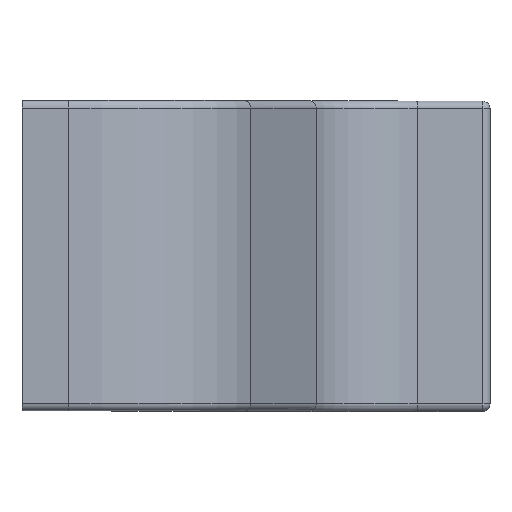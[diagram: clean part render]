
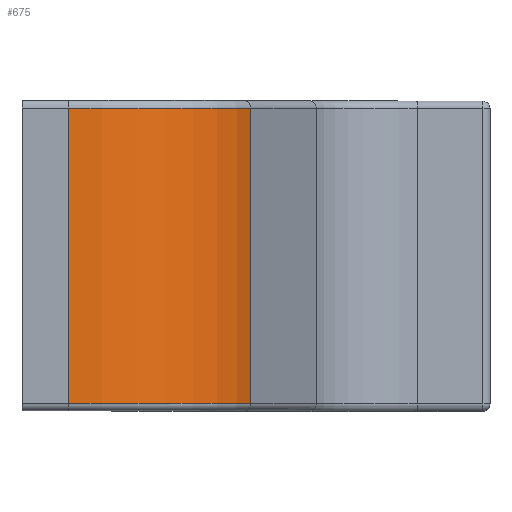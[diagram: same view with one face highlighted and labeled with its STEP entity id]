
A CAD part, top view. The second image highlights one B-rep face of the part: STEP entity #675.
In plain terms, the highlighted cylindrical face has radius 0.249 mm (diameter 0.499 mm), a partial arc.
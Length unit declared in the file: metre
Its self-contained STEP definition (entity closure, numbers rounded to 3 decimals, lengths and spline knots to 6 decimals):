
#70=LINE('',#1435,#114);
#72=LINE('',#1439,#116);
#114=VECTOR('',#1236,1.);
#116=VECTOR('',#1242,1.);
#247=ORIENTED_EDGE('',*,*,#390,.T.);
#248=ORIENTED_EDGE('',*,*,#370,.T.);
#249=ORIENTED_EDGE('',*,*,#392,.F.);
#250=ORIENTED_EDGE('',*,*,#381,.T.);
#370=EDGE_CURVE('',#438,#432,#490,.T.);
#381=EDGE_CURVE('',#443,#447,#495,.T.);
#390=EDGE_CURVE('',#447,#438,#70,.T.);
#392=EDGE_CURVE('',#443,#432,#72,.T.);
#432=VERTEX_POINT('',#1376);
#438=VERTEX_POINT('',#1394);
#443=VERTEX_POINT('',#1407);
#447=VERTEX_POINT('',#1419);
#490=CIRCLE('',#1014,0.000249);
#495=CIRCLE('',#1023,0.000249);
#529=EDGE_LOOP('',(#247,#248,#249,#250));
#571=FACE_BOUND('',#529,.T.);
#598=CYLINDRICAL_SURFACE('',#1031,0.000249);
#675=ADVANCED_FACE('',(#571),#598,.T.);
#1014=AXIS2_PLACEMENT_3D('',#1397,#1192,#1193);
#1023=AXIS2_PLACEMENT_3D('',#1420,#1216,#1217);
#1031=AXIS2_PLACEMENT_3D('',#1438,#1240,#1241);
#1192=DIRECTION('',(0.,1.,0.));
#1193=DIRECTION('',(0.,0.,-1.));
#1216=DIRECTION('',(0.,-1.,0.));
#1217=DIRECTION('',(0.,0.,1.));
#1236=DIRECTION('',(0.,-1.,0.));
#1240=DIRECTION('',(0.,1.,0.));
#1241=DIRECTION('',(0.,0.,1.));
#1242=DIRECTION('',(0.,-1.,0.));
#1376=CARTESIAN_POINT('',(-0.069457,-0.023254,0.009934));
#1394=CARTESIAN_POINT('',(-0.069692,-0.023254,0.010098));
#1397=CARTESIAN_POINT('',(-0.069692,-0.023254,0.009848));
#1407=CARTESIAN_POINT('',(-0.069457,-0.022875,0.009934));
#1419=CARTESIAN_POINT('',(-0.069692,-0.022875,0.010098));
#1420=CARTESIAN_POINT('',(-0.069692,-0.022875,0.009848));
#1435=CARTESIAN_POINT('',(-0.069692,-0.022865,0.010098));
#1438=CARTESIAN_POINT('',(-0.069692,-0.023064,0.009848));
#1439=CARTESIAN_POINT('',(-0.069457,-0.022865,0.009934));
